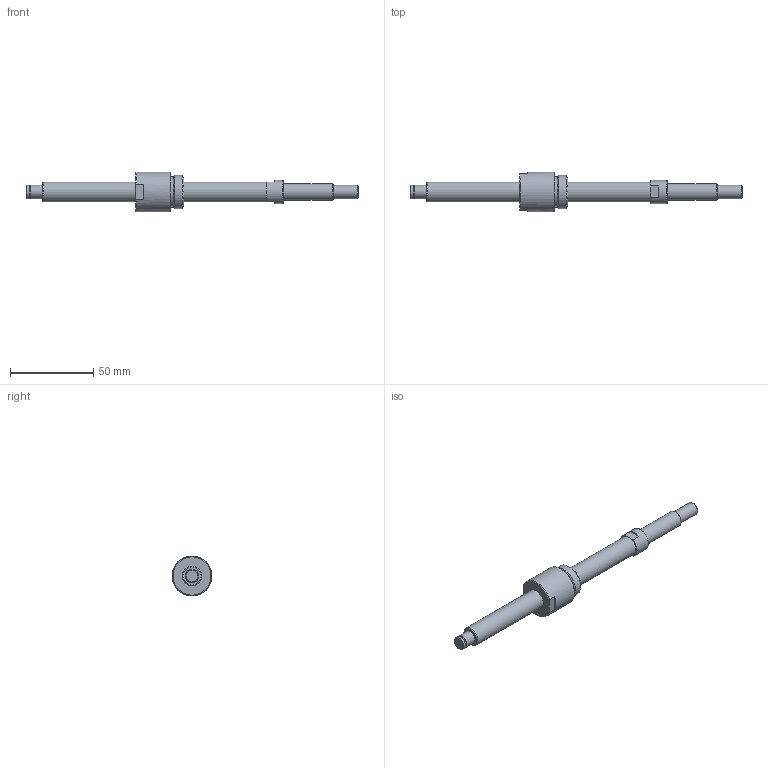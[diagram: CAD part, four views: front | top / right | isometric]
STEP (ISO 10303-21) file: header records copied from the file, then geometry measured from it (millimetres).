
FILE_DESCRIPTION(/* description */ ('STEP AP214'),/* implementation_level */ '2;1');
FILE_NAME(/* name */ 'NSG1204-131R200C5B0X(56)',/* time_stamp */ '2026-08-20T15:50:34+02:00',/* author */ ('License CC BY-ND 4.0'),/* organization */ ('CADENAS'),/* preprocessor_version */ 'ST-DEVELOPER v20',/* originating_system */ 'PARTsolutions',/* authorisation */ ' ');
FILE_SCHEMA (('AUTOMOTIVE_DESIGN {1 0 10303 214 3 1 1}'));
Length unit declared in the file: millimetre
Products named in the file (3): NSG1204-131R200C5B0X(56); NSG1204-131R200C3B_shaft; NSG1204_nut
Assembly tree (2 placements, depth 2):
  NSG1204-131R200C5B0X(56)
    NSG1204-131R200C3B_shaft
    NSG1204_nut
Bounding box: 200 x 24 x 24 mm (x, y, z)
Volume: 28873 mm3; surface area: 11212.3 mm2
Topology: 2 solids, 2 shells, 42 faces, 83 edges, 51 vertices
Faces by surface type: plane 20, cylinder 11, cone 10, torus 1
Full cylindrical faces by diameter (mm): 7.6 x1, 8 x3, 10 x1, 12 x2, 14 x1, 18.4 x1, 20 x1, 24 x1
Entity records: 1047 total; most frequent: DIRECTION 186, CARTESIAN_POINT 167, ORIENTED_EDGE 122, AXIS2_PLACEMENT_3D 84, EDGE_LOOP 70, FACE_BOUND 70, EDGE_CURVE 61, VERTEX_POINT 49
